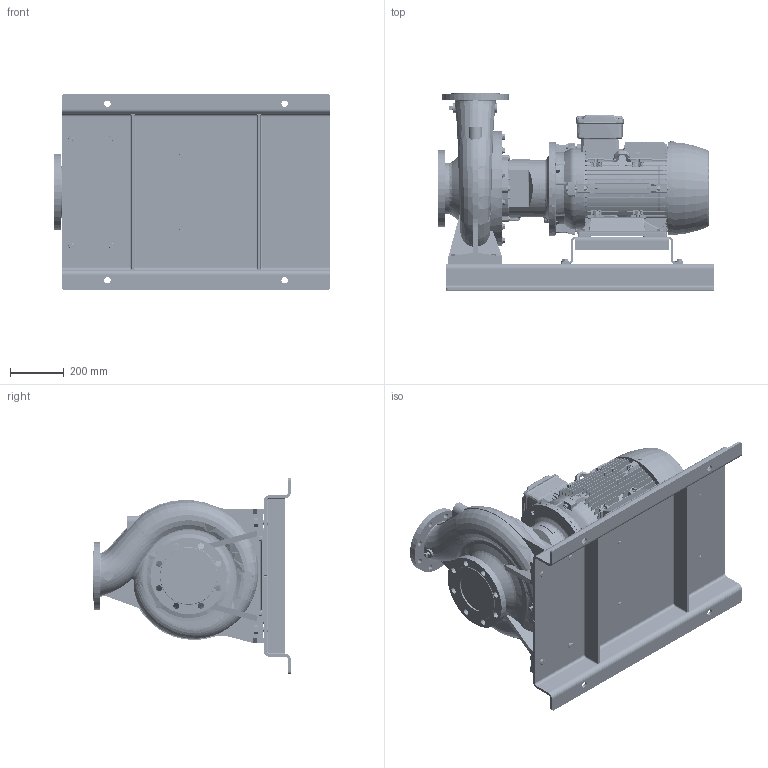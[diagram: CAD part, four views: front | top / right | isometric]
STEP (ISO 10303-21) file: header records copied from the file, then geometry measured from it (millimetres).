
FILE_DESCRIPTION (( 'STEP AP214' ), '1' );
FILE_NAME ('GSD4 125-315_18.5 & 22_(180ML)_W21_BP.STEP', '2026-05-08T04:11:53', ( '' ), ( '' ), 'SwSTEP 2.0', 'SolidWorks 2024', '' );
FILE_SCHEMA (( 'AUTOMOTIVE_DESIGN' ));
Length unit declared in the file: millimetre
Products named in the file (13): Parametric bolt and washer_SFT-A305B; Parametric bolt_SFT-A305B; Parametric Flat Washer_M12; Parametric bolt_SFT-A297B; 125-315-180M_L_ﾃﾞﾌｫﾙﾄ; 180M_L ALIE3_W21T_B35; Parametric Flat Washer_M20; N9S5 GSDA-953 F1-1832967-00; Parametric bolt and washer_SFT-A297B; Parametric bolt_SFT-A403B; GSD4 125-315_18.5 & 22_(180ML)_W21_BP; CGS11-5264; Parametric bolt and washer_SFT-A403B
Assembly tree (22 placements, depth 3):
  GSD4 125-315_18.5 & 22_(180ML)_W21_BP
    125-315-180M_L_ﾃﾞﾌｫﾙﾄ
    N9S5 GSDA-953 F1-1832967-00
    CGS11-5264
    Parametric bolt and washer_SFT-A403B  x4
      Parametric bolt_SFT-A403B
      Parametric Flat Washer_M20
    Parametric bolt and washer_SFT-A297B  x4
      Parametric bolt_SFT-A297B
      Parametric Flat Washer_M12
    Parametric bolt and washer_SFT-A305B  x4
      Parametric bolt_SFT-A305B
      Parametric Flat Washer_M12
    180M_L ALIE3_W21T_B35
Bounding box: 1030 x 735 x 730 mm (x, y, z)
Volume: 60721233.7 mm3; surface area: 6393073.5 mm2
Topology: 58 solids, 59 shells, 6726 faces, 17411 edges, 11261 vertices
Faces by surface type: plane 3939, cylinder 1393, cone 660, bspline 471, torus 247, sphere 16
Entity records: 246158 total; most frequent: CARTESIAN_POINT 102063, ORIENTED_EDGE 31706, DIRECTION 26744, EDGE_CURVE 15853, VERTEX_POINT 10256, LINE 9934, VECTOR 9934, AXIS2_PLACEMENT_3D 8405
